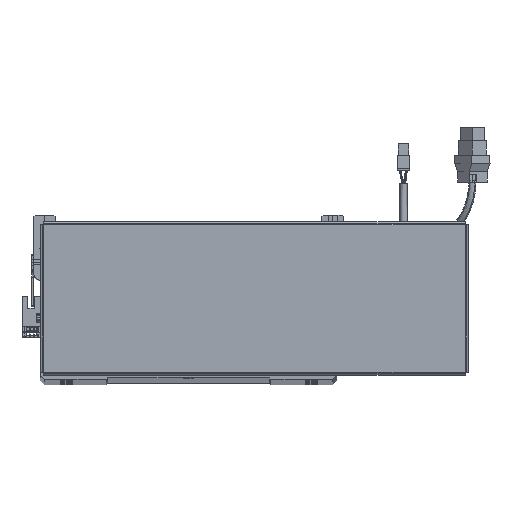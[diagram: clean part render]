
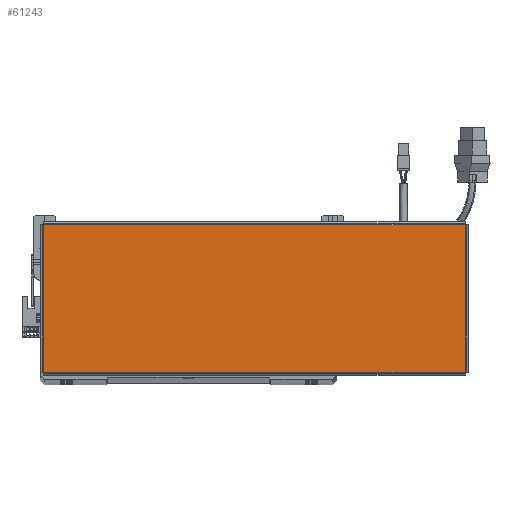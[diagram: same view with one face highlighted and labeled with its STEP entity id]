
A CAD part, top view. The second image highlights one B-rep face of the part: STEP entity #61243.
In plain terms, the highlighted planar face has unit normal (0, 0, 1).
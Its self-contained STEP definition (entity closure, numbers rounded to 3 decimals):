
#2847 = ORIENTED_EDGE ( 'NONE', *, *, #77475, .T. ) ;
#3391 = CARTESIAN_POINT ( 'NONE',  ( -156.513, 54.763, 0. ) ) ;
#4013 = AXIS2_PLACEMENT_3D ( 'NONE', #35972, #41237, #53103 ) ;
#4435 = FACE_OUTER_BOUND ( 'NONE', #55356, .T. ) ;
#4802 = LINE ( 'NONE', #18723, #51197 ) ;
#10185 = ORIENTED_EDGE ( 'NONE', *, *, #72029, .T. ) ;
#14363 = VECTOR ( 'NONE', #34715, 1000. ) ;
#18723 = CARTESIAN_POINT ( 'NONE',  ( 156.513, -54.793, 0. ) ) ;
#19253 = CARTESIAN_POINT ( 'NONE',  ( -156.513, 54.793, 0. ) ) ;
#21718 = VERTEX_POINT ( 'NONE', #3391 ) ;
#24525 = DIRECTION ( 'NONE',  ( 0., -1., 0. ) ) ;
#27587 = VERTEX_POINT ( 'NONE', #37628 ) ;
#30241 = LINE ( 'NONE', #68654, #51991 ) ;
#34715 = DIRECTION ( 'NONE',  ( 1., 0., 0. ) ) ;
#35972 = CARTESIAN_POINT ( 'NONE',  ( 0., 0., 0. ) ) ;
#37628 = CARTESIAN_POINT ( 'NONE',  ( -156.513, -54.763, 0. ) ) ;
#39969 = LINE ( 'NONE', #64284, #14363 ) ;
#41237 = DIRECTION ( 'NONE',  ( 0., 0., 1. ) ) ;
#42757 = DIRECTION ( 'NONE',  ( 0., 1., 0. ) ) ;
#44264 = ORIENTED_EDGE ( 'NONE', *, *, #58999, .T. ) ;
#47809 = PLANE ( 'NONE',  #4013 ) ;
#51197 = VECTOR ( 'NONE', #42757, 1000. ) ;
#51991 = VECTOR ( 'NONE', #56725, 1000. ) ;
#53103 = DIRECTION ( 'NONE',  ( 1., 0., 0. ) ) ;
#53758 = VERTEX_POINT ( 'NONE', #78232 ) ;
#55356 = EDGE_LOOP ( 'NONE', ( #2847, #44264, #10185, #73225 ) ) ;
#56725 = DIRECTION ( 'NONE',  ( -1., 0., 0. ) ) ;
#57307 = VECTOR ( 'NONE', #24525, 1000. ) ;
#58999 = EDGE_CURVE ( 'NONE', #59893, #53758, #4802, .T. ) ;
#59893 = VERTEX_POINT ( 'NONE', #76477 ) ;
#61243 = ADVANCED_FACE ( 'NONE', ( #4435 ), #47809, .T. ) ;
#64284 = CARTESIAN_POINT ( 'NONE',  ( -156.543, -54.763, 0. ) ) ;
#68654 = CARTESIAN_POINT ( 'NONE',  ( 156.543, 54.763, 0. ) ) ;
#69649 = LINE ( 'NONE', #19253, #57307 ) ;
#72029 = EDGE_CURVE ( 'NONE', #53758, #21718, #30241, .T. ) ;
#73225 = ORIENTED_EDGE ( 'NONE', *, *, #74228, .T. ) ;
#74228 = EDGE_CURVE ( 'NONE', #21718, #27587, #69649, .T. ) ;
#76477 = CARTESIAN_POINT ( 'NONE',  ( 156.513, -54.763, 0. ) ) ;
#77475 = EDGE_CURVE ( 'NONE', #27587, #59893, #39969, .T. ) ;
#78232 = CARTESIAN_POINT ( 'NONE',  ( 156.513, 54.763, 0. ) ) ;
